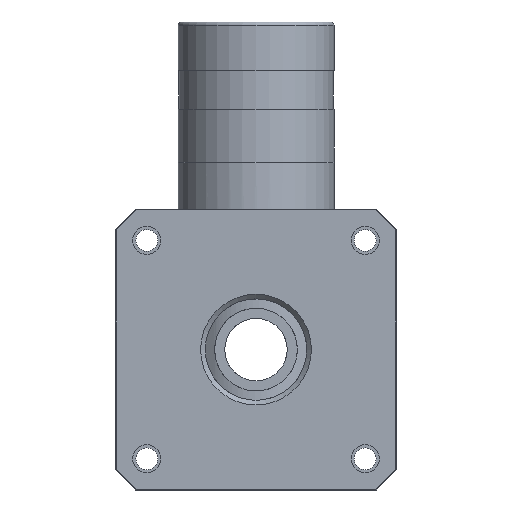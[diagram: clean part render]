
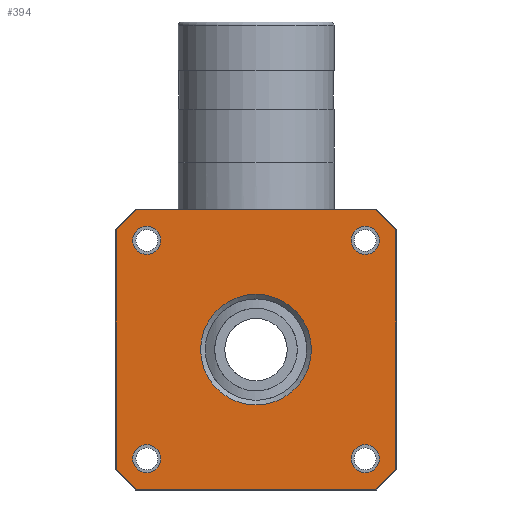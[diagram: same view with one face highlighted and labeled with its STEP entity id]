
A CAD part, front view. The second image highlights one B-rep face of the part: STEP entity #394.
In plain terms, the highlighted planar face has unit normal (0, -1, 0) as drawn and (0, 0, -1) by its records, which use the part's own axes.
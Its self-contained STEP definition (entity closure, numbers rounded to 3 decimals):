
#394=ADVANCED_FACE('',(#681,#682,#683,#684,#685,#686),#687,.T.);
#681=FACE_OUTER_BOUND('',#1044,.T.);
#682=FACE_BOUND('',#1045,.T.);
#683=FACE_BOUND('',#1046,.T.);
#684=FACE_BOUND('',#1047,.T.);
#685=FACE_BOUND('',#1048,.T.);
#686=FACE_BOUND('',#1049,.T.);
#687=PLANE('',#1050);
#1044=EDGE_LOOP('',(#1612,#1613,#1614,#1615,#1616,#1617,#1618,#1619));
#1045=EDGE_LOOP('',(#1620));
#1046=EDGE_LOOP('',(#1621));
#1047=EDGE_LOOP('',(#1622));
#1048=EDGE_LOOP('',(#1623));
#1049=EDGE_LOOP('',(#1624));
#1050=AXIS2_PLACEMENT_3D('',#1625,#1626,#1627);
#1612=ORIENTED_EDGE('',*,*,#2106,.T.);
#1613=ORIENTED_EDGE('',*,*,#2160,.T.);
#1614=ORIENTED_EDGE('',*,*,#2096,.T.);
#1615=ORIENTED_EDGE('',*,*,#2090,.T.);
#1616=ORIENTED_EDGE('',*,*,#2083,.T.);
#1617=ORIENTED_EDGE('',*,*,#2086,.T.);
#1618=ORIENTED_EDGE('',*,*,#2093,.T.);
#1619=ORIENTED_EDGE('',*,*,#2101,.T.);
#1620=ORIENTED_EDGE('',*,*,#2032,.T.);
#1621=ORIENTED_EDGE('',*,*,#2163,.F.);
#1622=ORIENTED_EDGE('',*,*,#2164,.F.);
#1623=ORIENTED_EDGE('',*,*,#2165,.F.);
#1624=ORIENTED_EDGE('',*,*,#2166,.F.);
#1625=CARTESIAN_POINT('',(0.0,0.0,-100.0));
#1626=DIRECTION('',(0.0,0.0,-1.0));
#1627=DIRECTION('',(-1.0,0.0,0.0));
#2032=EDGE_CURVE('',#2340,#2340,#2341,.F.);
#2083=EDGE_CURVE('',#2406,#2410,#2412,.T.);
#2086=EDGE_CURVE('',#2410,#2415,#2417,.T.);
#2090=EDGE_CURVE('',#2420,#2406,#2422,.T.);
#2093=EDGE_CURVE('',#2415,#2425,#2427,.T.);
#2096=EDGE_CURVE('',#2430,#2420,#2431,.T.);
#2101=EDGE_CURVE('',#2425,#2437,#2439,.T.);
#2106=EDGE_CURVE('',#2437,#2444,#2446,.T.);
#2160=EDGE_CURVE('',#2444,#2430,#2522,.T.);
#2163=EDGE_CURVE('',#2525,#2525,#2526,.T.);
#2164=EDGE_CURVE('',#2527,#2527,#2528,.T.);
#2165=EDGE_CURVE('',#2529,#2529,#2530,.T.);
#2166=EDGE_CURVE('',#2531,#2531,#2532,.T.);
#2340=VERTEX_POINT('',#3187);
#2341=CIRCLE('',#3188,35.5);
#2406=VERTEX_POINT('',#3283);
#2410=VERTEX_POINT('',#3289);
#2412=LINE('',#3292,#3293);
#2415=VERTEX_POINT('',#3296);
#2417=LINE('',#3299,#3300);
#2420=VERTEX_POINT('',#3304);
#2422=LINE('',#3307,#3308);
#2425=VERTEX_POINT('',#3311);
#2427=LINE('',#3314,#3315);
#2430=VERTEX_POINT('',#3319);
#2431=LINE('',#3320,#3321);
#2437=VERTEX_POINT('',#3329);
#2439=LINE('',#3332,#3333);
#2444=VERTEX_POINT('',#3340);
#2446=LINE('',#3343,#3344);
#2522=LINE('',#3455,#3456);
#2525=VERTEX_POINT('',#3460);
#2526=CIRCLE('',#3461,9.0);
#2527=VERTEX_POINT('',#3462);
#2528=CIRCLE('',#3463,9.0);
#2529=VERTEX_POINT('',#3464);
#2530=CIRCLE('',#3465,9.0);
#2531=VERTEX_POINT('',#3466);
#2532=CIRCLE('',#3467,9.0);
#3187=CARTESIAN_POINT('',(-35.5,0.,-100.0));
#3188=AXIS2_PLACEMENT_3D('',#3892,#3893,#3894);
#3283=CARTESIAN_POINT('',(-89.7,76.876,-100.0));
#3289=CARTESIAN_POINT('',(-76.876,89.7,-100.0));
#3292=CARTESIAN_POINT('',(-83.288,83.288,-100.0));
#3293=VECTOR('',#3937,1.0);
#3296=CARTESIAN_POINT('',(76.876,89.7,-100.0));
#3299=CARTESIAN_POINT('',(0.0,89.7,-100.0));
#3300=VECTOR('',#3939,1.0);
#3304=CARTESIAN_POINT('',(-89.7,-76.876,-100.0));
#3307=CARTESIAN_POINT('',(-89.7,0.0,-100.0));
#3308=VECTOR('',#3942,1.0);
#3311=CARTESIAN_POINT('',(89.7,76.876,-100.0));
#3314=CARTESIAN_POINT('',(83.288,83.288,-100.0));
#3315=VECTOR('',#3944,1.0);
#3319=CARTESIAN_POINT('',(-76.876,-89.7,-100.0));
#3320=CARTESIAN_POINT('',(-83.288,-83.288,-100.0));
#3321=VECTOR('',#3946,1.0);
#3329=CARTESIAN_POINT('',(89.7,-76.876,-100.0));
#3332=CARTESIAN_POINT('',(89.7,0.0,-100.0));
#3333=VECTOR('',#3950,1.0);
#3340=CARTESIAN_POINT('',(76.876,-89.7,-100.0));
#3343=CARTESIAN_POINT('',(83.288,-83.288,-100.0));
#3344=VECTOR('',#3954,1.0);
#3455=CARTESIAN_POINT('',(0.0,-89.7,-100.0));
#3456=VECTOR('',#3996,1.0);
#3460=CARTESIAN_POINT('',(-79.0,-70.0,-100.0));
#3461=AXIS2_PLACEMENT_3D('',#3998,#3999,#4000);
#3462=CARTESIAN_POINT('',(61.0,70.0,-100.0));
#3463=AXIS2_PLACEMENT_3D('',#4001,#4002,#4003);
#3464=CARTESIAN_POINT('',(61.0,-70.0,-100.0));
#3465=AXIS2_PLACEMENT_3D('',#4004,#4005,#4006);
#3466=CARTESIAN_POINT('',(-79.0,70.0,-100.0));
#3467=AXIS2_PLACEMENT_3D('',#4007,#4008,#4009);
#3892=CARTESIAN_POINT('',(0.0,0.0,-100.0));
#3893=DIRECTION('',(0.0,0.0,-1.0));
#3894=DIRECTION('',(-1.0,0.0,0.0));
#3937=DIRECTION('',(0.707,0.707,0.0));
#3939=DIRECTION('',(1.0,0.0,0.0));
#3942=DIRECTION('',(0.0,1.0,0.0));
#3944=DIRECTION('',(0.707,-0.707,0.0));
#3946=DIRECTION('',(-0.707,0.707,0.0));
#3950=DIRECTION('',(0.0,-1.0,0.0));
#3954=DIRECTION('',(-0.707,-0.707,0.0));
#3996=DIRECTION('',(-1.0,0.0,0.0));
#3998=CARTESIAN_POINT('',(-70.0,-70.0,-100.0));
#3999=DIRECTION('',(0.0,0.0,-1.0));
#4000=DIRECTION('',(-1.0,0.0,0.0));
#4001=CARTESIAN_POINT('',(70.0,70.0,-100.0));
#4002=DIRECTION('',(0.0,0.0,-1.0));
#4003=DIRECTION('',(-1.0,0.0,0.0));
#4004=CARTESIAN_POINT('',(70.0,-70.0,-100.0));
#4005=DIRECTION('',(0.0,0.0,-1.0));
#4006=DIRECTION('',(-1.0,0.0,0.0));
#4007=CARTESIAN_POINT('',(-70.0,70.0,-100.0));
#4008=DIRECTION('',(0.0,0.0,-1.0));
#4009=DIRECTION('',(-1.0,0.0,0.0));
